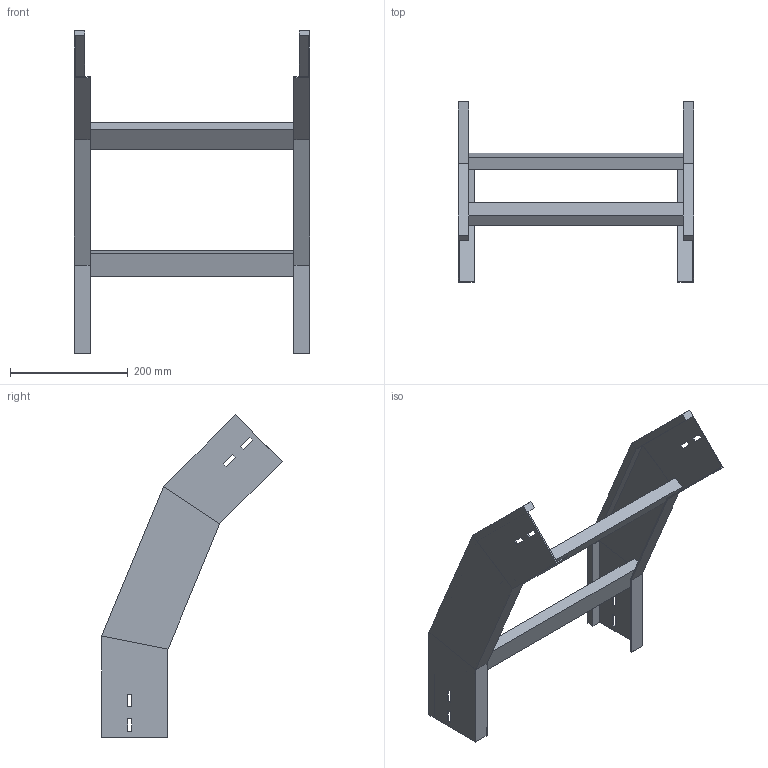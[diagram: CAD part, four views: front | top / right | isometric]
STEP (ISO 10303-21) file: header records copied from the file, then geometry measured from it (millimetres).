
FILE_DESCRIPTION (( 'STEP AP214' ), '1' );
FILE_NAME ('A2_34B3J400.step', '2025-02-21T14:53:16', ( '' ), ( '' ), 'SwSTEP 2.0', 'SolidWorks 2023', '' );
FILE_SCHEMA (( 'AUTOMOTIVE_DESIGN' ));
Length unit declared in the file: millimetre
Products named in the file (3): TRAVERSINO_400; LONGH.DISCESA_45°_H112.5_R300; A2_34B3J400
Assembly tree (5 placements, depth 2):
  A2_34B3J400
    LONGH.DISCESA_45°_H112.5_R300  x2
    TRAVERSINO_400  x3
Bounding box: 400 x 306.58 x 548.11 mm (x, y, z)
Volume: 1507594.3 mm3; surface area: 504600.6 mm2
Topology: 5 solids, 5 shells, 102 faces, 244 edges, 152 vertices
Faces by surface type: plane 102
Entity records: 1480 total; most frequent: CARTESIAN_POINT 244, ORIENTED_EDGE 232, DIRECTION 228, VECTOR 116, EDGE_CURVE 116, LINE 116, VERTEX_POINT 72, EDGE_LOOP 56
